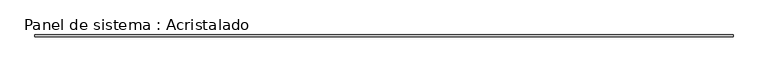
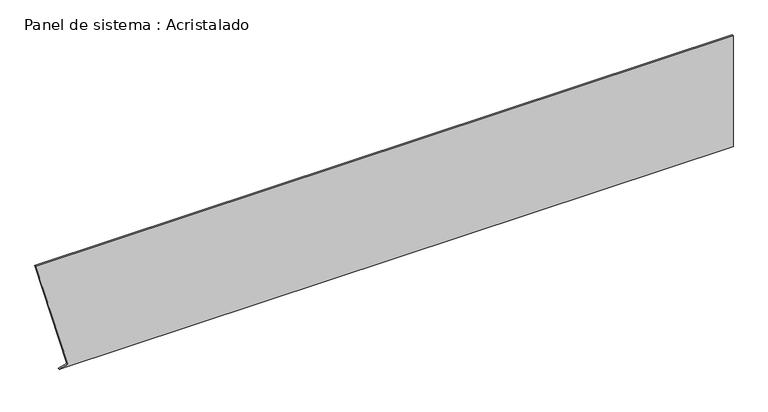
"""IFC4 building model written with IfcOpenShell, lengths in millimetres: plate geometry, Panel de sistema : Acristalado."""

from ifc_helpers import new_model, si_unit, frame, origin, place, context, project, spatial, polyline, outline, extrude, source, transform, mapped, element, save


def panel_de_sistema_acristalado_fab3a2a9(model_context):
    return source(origin(), model_context, "Body", "SweptSolid", [
        extrude(outline(polyline([(0.0, -3750.2143581), (0.0, 4021.4961325), (1350.0, 4021.4961325), (1350.0, -4021.4961325), (26.768991, -3653.8638463), (0.0, -3750.2143581)])), frame((0.0, -10.0, 0.0), z_axis=(0.0, 1.0, 0.0), x_axis=(0.0, 0.0, 1.0)), (0.0, 0.0, 1.0), 20.0),
    ])


if __name__ == "__main__":
    model = new_model("IFC4")
    model_context = context("Model", 3, world=origin())
    ifc_project = project(units=[si_unit("LENGTHUNIT", "METRE", prefix="MILLI")], contexts=[model_context])
    site = spatial("IfcSite", under=ifc_project)
    building = spatial("IfcBuilding", under=site)
    placement = place(None, origin())
    panel_de_sistema_acristalado_shape = panel_de_sistema_acristalado_fab3a2a9(model_context)
    element("IfcPlate", 1, ObjectType="Panel de sistema : Acristalado", at=placement, inside=building, context=model_context, shape_type="MappedRepresentation", body=[
        mapped(panel_de_sistema_acristalado_shape, transform((0.0, 0.0, 0.0), x_axis=(1.0, 0.0, 0.0), y_axis=(0.0, 1.0, 0.0), z_axis=(0.0, 0.0, 1.0))),
    ])
    save(model, "model.ifc")
